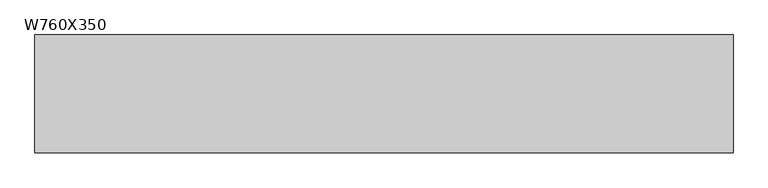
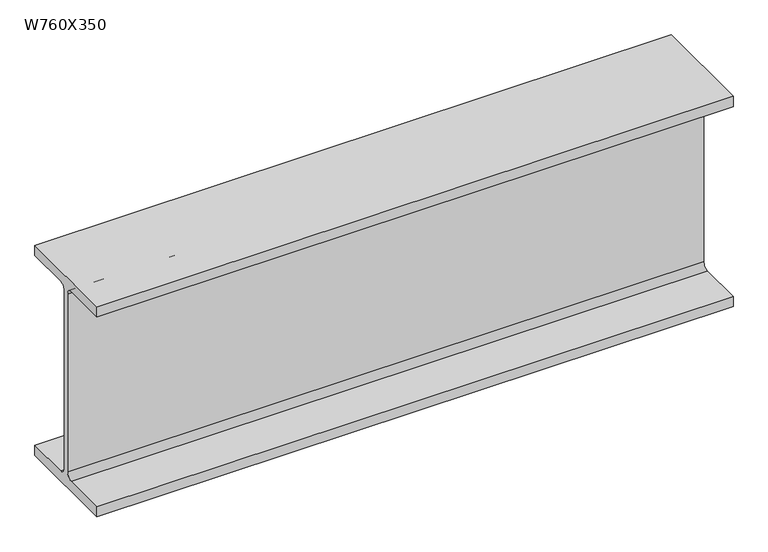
"""IFC4 building model written with IfcOpenShell, lengths in millimetres: beam geometry, M_W-Wide Flange : W760X350."""

from ifc_helpers import new_model, si_unit, point, frame, frame_2d, origin, place, context, project, spatial, polyline, circle_curve, trimmed, segment, composite_curve, outline, extrude, source, transform, mapped, element, save


def w760x350_76114712(model_context):
    return source(origin(), model_context, "Body", "SweptSolid", [
        extrude(outline(composite_curve([segment(polyline([(192.0, -359.4), (192.0, -397.5), (-192.0, -397.5), (-192.0, -359.4), (-32.75, -359.4)]), True, "CONTINUOUS"), segment(trimmed(circle_curve(frame_2d((-32.75, -337.2)), 22.2), [point((-32.75, -359.4))], [point((-10.55, -337.2))], True, "CARTESIAN"), True, "CONTINUOUS"), segment(polyline([(-10.55, -337.2), (-10.55, 337.2)]), True, "CONTINUOUS"), segment(trimmed(circle_curve(frame_2d((-32.75, 337.2)), 22.2), [point((-10.55, 337.2))], [point((-32.75, 359.4))], True, "CARTESIAN"), True, "CONTINUOUS"), segment(polyline([(-32.75, 359.4), (-192.0, 359.4), (-192.0, 397.5), (192.0, 397.5), (192.0, 359.4), (32.75, 359.4)]), True, "CONTINUOUS"), segment(trimmed(circle_curve(frame_2d((32.75, 337.2)), 22.2), [point((32.75, 359.4))], [point((10.55, 337.2))], True, "CARTESIAN"), True, "CONTINUOUS"), segment(polyline([(10.55, 337.2), (10.55, -337.2)]), True, "CONTINUOUS"), segment(trimmed(circle_curve(frame_2d((32.75, -337.2)), 22.2), [point((10.55, -337.2))], [point((32.75, -359.4))], True, "CARTESIAN"), True, "CONTINUOUS"), segment(polyline([(32.75, -359.4), (192.0, -359.4)]), True, "CONTINUOUS")], self_intersect=False)), frame((-1757.5851295, 0.0, 0.0), z_axis=(1.0, 0.0, 0.0), x_axis=(0.0, 1.0, 0.0)), (0.0, 0.0, 1.0), 2275.7195093),
    ])


if __name__ == "__main__":
    model = new_model("IFC4")
    model_context = context("Model", 3, world=origin())
    ifc_project = project(units=[si_unit("LENGTHUNIT", "METRE", prefix="MILLI")], contexts=[model_context])
    site = spatial("IfcSite", under=ifc_project)
    building = spatial("IfcBuilding", under=site)
    placement = place(None, origin())
    w760x350_shape = w760x350_76114712(model_context)
    element("IfcBeam", 1, ObjectType="M_W-Wide Flange : W760X350", at=placement, inside=building, context=model_context, shape_type="MappedRepresentation", body=[
        mapped(w760x350_shape, transform((0.0, 0.0, 0.0), x_axis=(1.0, 0.0, 0.0), y_axis=(0.0, 1.0, 0.0), z_axis=(0.0, 0.0, 1.0))),
    ])
    save(model, "model.ifc")
